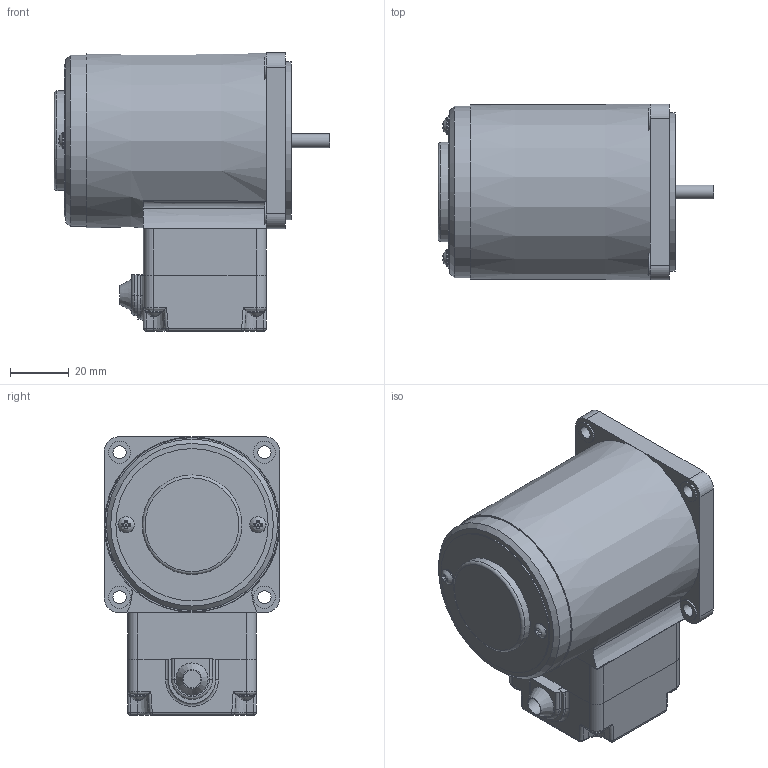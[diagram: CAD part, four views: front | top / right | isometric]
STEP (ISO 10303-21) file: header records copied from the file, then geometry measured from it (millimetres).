
FILE_DESCRIPTION(/* description */ (''),/* implementation_level */ '2;1');
FILE_NAME(/* name */ 'E:\도면작업\2016\0704) 미주향 SG 도면\3D MOTOR\TERMINAL BOX TYPE\REVERSIBLE TERMINAL BOX\SG6R06G_-T.stp',/* time_stamp */ '2017-01-24T08:31:54+09:00',/* author */ ('jy-jung'),/* organization */ (''),/* preprocessor_version */ 'ST-DEVELOPER v15.6',/* originating_system */ 'Autodesk Inventor 2015',/* authorisation */ '');
FILE_SCHEMA (('AUTOMOTIVE_DESIGN { 1 0 10303 214 3 1 1 }'));
Length unit declared in the file: millimetre
Products named in the file (1): 부품1
Bounding box: 94.2 x 60 x 95 mm (x, y, z)
Volume: 251201.6 mm3; surface area: 44032.7 mm2
Topology: 1 solids, 9 shells, 599 faces, 1536 edges, 958 vertices
Faces by surface type: plane 308, cylinder 202, torus 39, bspline 17, cone 17, sphere 16
Full cylindrical faces by diameter (mm): 2.5 x2, 3 x6, 3.5 x10, 4.5 x4, 4.76 x1, 5.6 x6, 6 x1, 7.5 x4, 8 x1, 25 x1, 34 x1, 52 x1, 54 x1, 58.5 x1
Entity records: 19001 total; most frequent: CARTESIAN_POINT 4037, DIRECTION 3011, ORIENTED_EDGE 2892, EDGE_CURVE 1446, AXIS2_PLACEMENT_3D 1086, VERTEX_POINT 950, LINE 839, VECTOR 839
